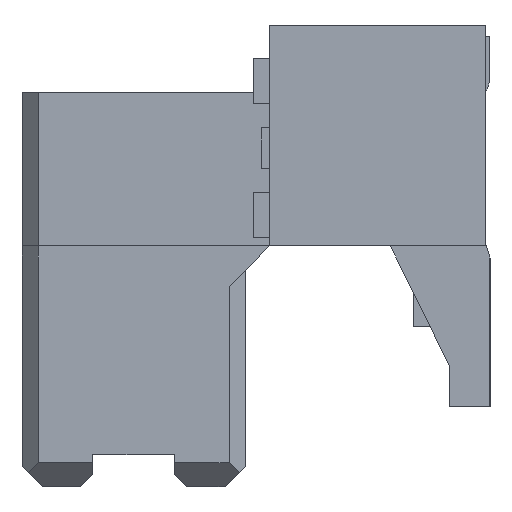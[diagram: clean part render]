
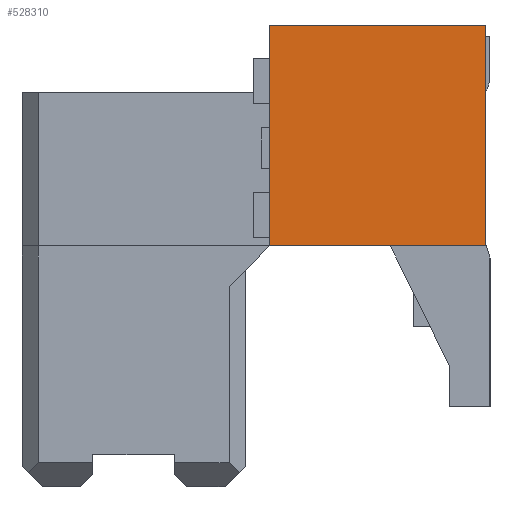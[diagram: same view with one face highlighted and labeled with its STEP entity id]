
A CAD part, left-side view. The second image highlights one B-rep face of the part: STEP entity #528310.
In plain terms, the highlighted planar face has unit normal (-1, 0, 0) as drawn and (0, 0, 1) by its records, which use the part's own axes.
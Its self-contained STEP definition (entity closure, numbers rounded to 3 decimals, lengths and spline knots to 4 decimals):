
#107270=CARTESIAN_POINT('',(1.86,2.29,
29.6125));
#107280=VERTEX_POINT('',#107270);
#107310=CARTESIAN_POINT('',(1.86,0.,29.6125));
#107320=DIRECTION('',(0.,1.,0.));
#107330=VECTOR('',#107320,1.);
#107340=LINE('',#107310,#107330);
#107350=CARTESIAN_POINT('',(1.86,4.99,
29.6125));
#107360=VERTEX_POINT('',#107350);
#107370=EDGE_CURVE('',#107280,#107360,#107340,.T.);
#111400=CARTESIAN_POINT('',(0.,4.99,29.6125));
#111410=DIRECTION('',(-1.,0.,0.));
#111420=VECTOR('',#111410,1.);
#111430=LINE('',#111400,#111420);
#111440=CARTESIAN_POINT('',(-0.89,4.99,
29.6125));
#111450=VERTEX_POINT('',#111440);
#111460=EDGE_CURVE('',#107360,#111450,#111430,.T.);
#527980=CARTESIAN_POINT('',(-0.89,0.,29.6125));
#527990=DIRECTION('',(0.,-1.,0.));
#528000=VECTOR('',#527990,1.);
#528010=LINE('',#527980,#528000);
#528020=CARTESIAN_POINT('',(-0.89,2.29,
29.6125));
#528030=VERTEX_POINT('',#528020);
#528040=EDGE_CURVE('',#111450,#528030,#528010,.T.);
#528150=CARTESIAN_POINT('',(-0.9588,2.0175,
29.6125));
#528160=DIRECTION('',(0.,0.,1.));
#528170=DIRECTION('',(1.,0.,0.));
#528180=AXIS2_PLACEMENT_3D('',#528150,#528160,#528170);
#528190=PLANE('',#528180);
#528200=ORIENTED_EDGE('',*,*,#107370,.T.);
#528210=CARTESIAN_POINT('',(0.,2.29,
29.6125));
#528220=DIRECTION('',(1.,0.,0.));
#528230=VECTOR('',#528220,1.);
#528240=LINE('',#528210,#528230);
#528250=EDGE_CURVE('',#528030,#107280,#528240,.T.);
#528260=ORIENTED_EDGE('',*,*,#528250,.T.);
#528270=ORIENTED_EDGE('',*,*,#528040,.T.);
#528280=ORIENTED_EDGE('',*,*,#111460,.T.);
#528290=EDGE_LOOP('',(#528280,#528270,#528260,#528200));
#528300=FACE_OUTER_BOUND('',#528290,.T.);
#528310=ADVANCED_FACE('',(#528300),#528190,.T.);
